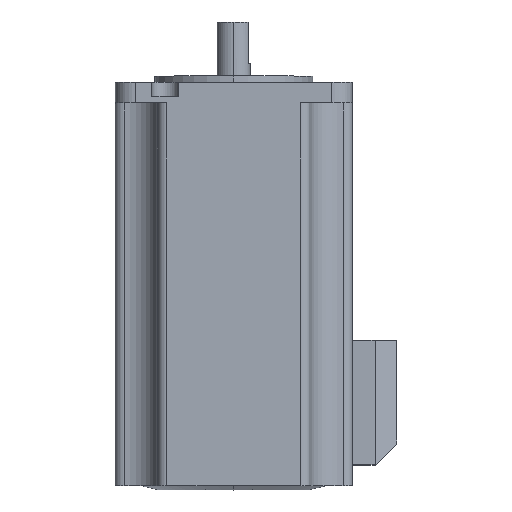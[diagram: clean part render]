
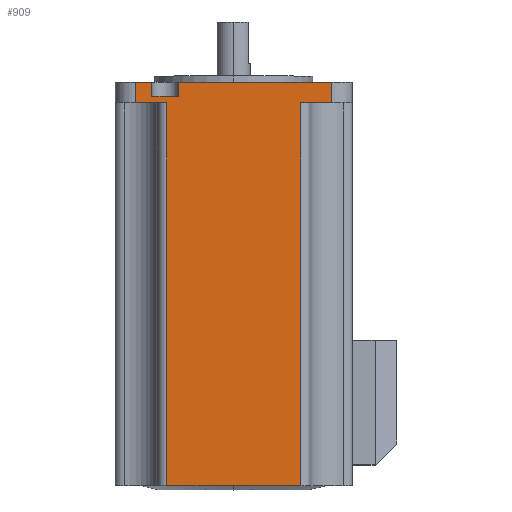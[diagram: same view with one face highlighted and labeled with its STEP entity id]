
A CAD part, top view. The second image highlights one B-rep face of the part: STEP entity #909.
In plain terms, the highlighted planar face has unit normal (0, 0, 1).
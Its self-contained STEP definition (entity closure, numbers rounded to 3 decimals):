
#16 = LINE ( 'NONE', #1435, #2230 ) ;
#19 = ORIENTED_EDGE ( 'NONE', *, *, #599, .F. ) ;
#28 = CARTESIAN_POINT ( 'NONE',  ( 15.2, -3.4, 0. ) ) ;
#38 = VECTOR ( 'NONE', #169, 1000. ) ;
#45 = LINE ( 'NONE', #728, #1163 ) ;
#63 = CARTESIAN_POINT ( 'NONE',  ( 8.8, 0., 0. ) ) ;
#68 = VERTEX_POINT ( 'NONE', #1700 ) ;
#146 = DIRECTION ( 'NONE',  ( -1., 0., 0. ) ) ;
#156 = VERTEX_POINT ( 'NONE', #751 ) ;
#169 = DIRECTION ( 'NONE',  ( 0., -1., 0. ) ) ;
#224 = ORIENTED_EDGE ( 'NONE', *, *, #2119, .F. ) ;
#250 = CARTESIAN_POINT ( 'NONE',  ( 12.4, -97., 0. ) ) ;
#272 = VERTEX_POINT ( 'NONE', #2590 ) ;
#346 = ORIENTED_EDGE ( 'NONE', *, *, #1847, .T. ) ;
#351 = ORIENTED_EDGE ( 'NONE', *, *, #440, .F. ) ;
#363 = LINE ( 'NONE', #2036, #851 ) ;
#440 = EDGE_CURVE ( 'NONE', #1576, #1167, #16, .T. ) ;
#518 = ORIENTED_EDGE ( 'NONE', *, *, #2228, .F. ) ;
#598 = VERTEX_POINT ( 'NONE', #2631 ) ;
#599 = EDGE_CURVE ( 'NONE', #272, #1124, #2582, .T. ) ;
#649 = CARTESIAN_POINT ( 'NONE',  ( 4.93, -6., 0. ) ) ;
#669 = LINE ( 'NONE', #2697, #38 ) ;
#705 = DIRECTION ( 'NONE',  ( 1., 0., 0. ) ) ;
#728 = CARTESIAN_POINT ( 'NONE',  ( 44.6, -5., 0. ) ) ;
#751 = CARTESIAN_POINT ( 'NONE',  ( 44.6, -5., 0. ) ) ;
#768 = CARTESIAN_POINT ( 'NONE',  ( 52.07, -5., 0. ) ) ;
#842 = DIRECTION ( 'NONE',  ( -1., 0., 0. ) ) ;
#851 = VECTOR ( 'NONE', #2257, 1000. ) ;
#863 = VECTOR ( 'NONE', #1501, 1000. ) ;
#871 = AXIS2_PLACEMENT_3D ( 'NONE', #2051, #2232, #2252 ) ;
#890 = VECTOR ( 'NONE', #1204, 1000. ) ;
#909 = ADVANCED_FACE ( 'NONE', ( #2184 ), #2222, .T. ) ;
#959 = CARTESIAN_POINT ( 'NONE',  ( 0., -97., 0. ) ) ;
#966 = ORIENTED_EDGE ( 'NONE', *, *, #1773, .F. ) ;
#969 = VECTOR ( 'NONE', #705, 1000. ) ;
#1043 = CARTESIAN_POINT ( 'NONE',  ( 4.93, 0., 0. ) ) ;
#1059 = DIRECTION ( 'NONE',  ( 1., 0., 0. ) ) ;
#1066 = CARTESIAN_POINT ( 'NONE',  ( 52.07, -6., 0. ) ) ;
#1108 = LINE ( 'NONE', #1066, #2387 ) ;
#1124 = VERTEX_POINT ( 'NONE', #1043 ) ;
#1163 = VECTOR ( 'NONE', #842, 1000. ) ;
#1167 = VERTEX_POINT ( 'NONE', #1953 ) ;
#1203 = EDGE_CURVE ( 'NONE', #1167, #2008, #1853, .T. ) ;
#1204 = DIRECTION ( 'NONE',  ( 0., 1., 0. ) ) ;
#1244 = EDGE_CURVE ( 'NONE', #2512, #156, #45, .T. ) ;
#1277 = VECTOR ( 'NONE', #1059, 1000. ) ;
#1368 = DIRECTION ( 'NONE',  ( 0., 1., 0. ) ) ;
#1403 = LINE ( 'NONE', #1566, #863 ) ;
#1431 = EDGE_LOOP ( 'NONE', ( #346, #966, #2172, #2306, #1780, #351, #224, #1523, #1656, #19, #518, #2598 ) ) ;
#1435 = CARTESIAN_POINT ( 'NONE',  ( 15.2, -3.4, 0. ) ) ;
#1465 = VECTOR ( 'NONE', #1805, 1000. ) ;
#1501 = DIRECTION ( 'NONE',  ( 1., 0., 0. ) ) ;
#1523 = ORIENTED_EDGE ( 'NONE', *, *, #2201, .T. ) ;
#1560 = LINE ( 'NONE', #1715, #2088 ) ;
#1566 = CARTESIAN_POINT ( 'NONE',  ( 8.8, -3.4, 0. ) ) ;
#1576 = VERTEX_POINT ( 'NONE', #28 ) ;
#1617 = LINE ( 'NONE', #2394, #2154 ) ;
#1648 = DIRECTION ( 'NONE',  ( 0., 1., 0. ) ) ;
#1649 = VERTEX_POINT ( 'NONE', #63 ) ;
#1656 = ORIENTED_EDGE ( 'NONE', *, *, #2461, .F. ) ;
#1678 = CARTESIAN_POINT ( 'NONE',  ( 8.8, -3.4, 0. ) ) ;
#1700 = CARTESIAN_POINT ( 'NONE',  ( 44.6, -97., 0. ) ) ;
#1715 = CARTESIAN_POINT ( 'NONE',  ( 12.4, -5., 0. ) ) ;
#1773 = EDGE_CURVE ( 'NONE', #156, #68, #669, .T. ) ;
#1780 = ORIENTED_EDGE ( 'NONE', *, *, #1203, .F. ) ;
#1786 = CARTESIAN_POINT ( 'NONE',  ( 12.4, -5., 0. ) ) ;
#1805 = DIRECTION ( 'NONE',  ( 0., -1., 0. ) ) ;
#1847 = EDGE_CURVE ( 'NONE', #2642, #68, #2247, .T. ) ;
#1853 = LINE ( 'NONE', #1902, #1277 ) ;
#1902 = CARTESIAN_POINT ( 'NONE',  ( 0., 0., 0. ) ) ;
#1953 = CARTESIAN_POINT ( 'NONE',  ( 15.2, 0., 0. ) ) ;
#2008 = VERTEX_POINT ( 'NONE', #2374 ) ;
#2036 = CARTESIAN_POINT ( 'NONE',  ( 0., 0., 0. ) ) ;
#2051 = CARTESIAN_POINT ( 'NONE',  ( 0., -97., 0. ) ) ;
#2088 = VECTOR ( 'NONE', #146, 1000. ) ;
#2095 = EDGE_CURVE ( 'NONE', #598, #2642, #2210, .T. ) ;
#2117 = VERTEX_POINT ( 'NONE', #1678 ) ;
#2119 = EDGE_CURVE ( 'NONE', #2117, #1576, #1403, .T. ) ;
#2154 = VECTOR ( 'NONE', #2731, 1000. ) ;
#2172 = ORIENTED_EDGE ( 'NONE', *, *, #1244, .F. ) ;
#2184 = FACE_OUTER_BOUND ( 'NONE', #1431, .T. ) ;
#2201 = EDGE_CURVE ( 'NONE', #2117, #1649, #1617, .T. ) ;
#2210 = LINE ( 'NONE', #1786, #1465 ) ;
#2222 = PLANE ( 'NONE',  #871 ) ;
#2228 = EDGE_CURVE ( 'NONE', #598, #272, #1560, .T. ) ;
#2230 = VECTOR ( 'NONE', #1648, 1000. ) ;
#2232 = DIRECTION ( 'NONE',  ( 0., 0., 1. ) ) ;
#2247 = LINE ( 'NONE', #959, #969 ) ;
#2252 = DIRECTION ( 'NONE',  ( 1., 0., 0. ) ) ;
#2257 = DIRECTION ( 'NONE',  ( 1., 0., 0. ) ) ;
#2306 = ORIENTED_EDGE ( 'NONE', *, *, #2384, .T. ) ;
#2374 = CARTESIAN_POINT ( 'NONE',  ( 52.07, 0., 0. ) ) ;
#2384 = EDGE_CURVE ( 'NONE', #2512, #2008, #1108, .T. ) ;
#2387 = VECTOR ( 'NONE', #1368, 1000. ) ;
#2394 = CARTESIAN_POINT ( 'NONE',  ( 8.8, -3.4, 0. ) ) ;
#2461 = EDGE_CURVE ( 'NONE', #1124, #1649, #363, .T. ) ;
#2512 = VERTEX_POINT ( 'NONE', #768 ) ;
#2582 = LINE ( 'NONE', #649, #890 ) ;
#2590 = CARTESIAN_POINT ( 'NONE',  ( 4.93, -5., 0. ) ) ;
#2598 = ORIENTED_EDGE ( 'NONE', *, *, #2095, .T. ) ;
#2631 = CARTESIAN_POINT ( 'NONE',  ( 12.4, -5., 0. ) ) ;
#2642 = VERTEX_POINT ( 'NONE', #250 ) ;
#2697 = CARTESIAN_POINT ( 'NONE',  ( 44.6, -5., 0. ) ) ;
#2731 = DIRECTION ( 'NONE',  ( 0., 1., 0. ) ) ;
